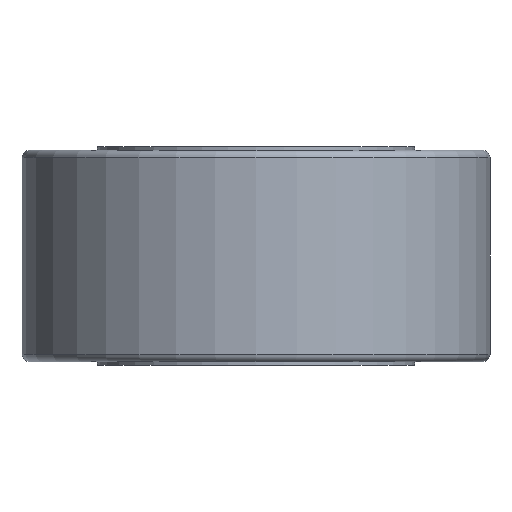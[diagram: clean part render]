
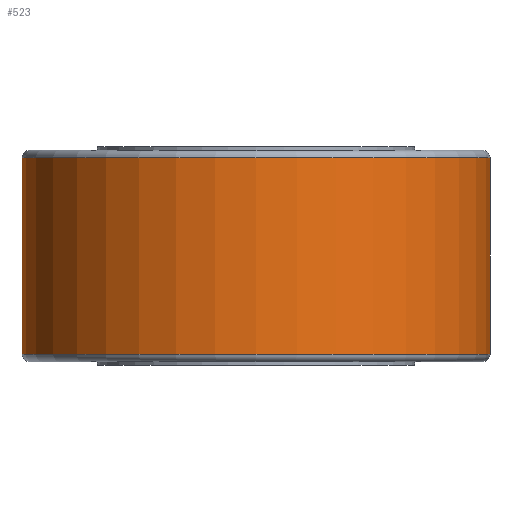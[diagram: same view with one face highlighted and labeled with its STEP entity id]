
A CAD part, front view. The second image highlights one B-rep face of the part: STEP entity #523.
In plain terms, the highlighted cylindrical face has radius 31 mm (diameter 62 mm), a partial arc.
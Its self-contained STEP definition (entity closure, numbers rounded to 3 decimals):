
#3 = DIRECTION ( 'NONE',  ( -1., 0., 0. ) ) ;
#11 = CARTESIAN_POINT ( 'NONE',  ( 0., 0., 1. ) ) ;
#28 = CARTESIAN_POINT ( 'NONE',  ( 31., 0., 1. ) ) ;
#41 = CARTESIAN_POINT ( 'NONE',  ( 31., 0., 28. ) ) ;
#54 = DIRECTION ( 'NONE',  ( 0., 0., -1. ) ) ;
#63 = DIRECTION ( 'NONE',  ( 1., 0., 0. ) ) ;
#83 = CIRCLE ( 'NONE', #226, 31. ) ;
#123 = ORIENTED_EDGE ( 'NONE', *, *, #516, .T. ) ;
#124 = DIRECTION ( 'NONE',  ( 0., 0., -1. ) ) ;
#171 = CARTESIAN_POINT ( 'NONE',  ( -31., 0., 28. ) ) ;
#186 = FACE_OUTER_BOUND ( 'NONE', #554, .T. ) ;
#194 = LINE ( 'NONE', #41, #530 ) ;
#201 = LINE ( 'NONE', #171, #309 ) ;
#214 = CYLINDRICAL_SURFACE ( 'NONE', #313, 31. ) ;
#221 = CARTESIAN_POINT ( 'NONE',  ( -31., 0., 1. ) ) ;
#226 = AXIS2_PLACEMENT_3D ( 'NONE', #314, #54, #362 ) ;
#227 = DIRECTION ( 'NONE',  ( 0., 0., -1. ) ) ;
#250 = CIRCLE ( 'NONE', #258, 31. ) ;
#258 = AXIS2_PLACEMENT_3D ( 'NONE', #11, #321, #63 ) ;
#265 = VERTEX_POINT ( 'NONE', #497 ) ;
#267 = VERTEX_POINT ( 'NONE', #221 ) ;
#309 = VECTOR ( 'NONE', #124, 1000. ) ;
#313 = AXIS2_PLACEMENT_3D ( 'NONE', #538, #227, #3 ) ;
#314 = CARTESIAN_POINT ( 'NONE',  ( 0., 0., 27. ) ) ;
#321 = DIRECTION ( 'NONE',  ( 0., 0., 1. ) ) ;
#349 = DIRECTION ( 'NONE',  ( 0., 0., -1. ) ) ;
#359 = EDGE_CURVE ( 'NONE', #265, #503, #194, .T. ) ;
#362 = DIRECTION ( 'NONE',  ( 1., 0., 0. ) ) ;
#372 = VERTEX_POINT ( 'NONE', #526 ) ;
#381 = ORIENTED_EDGE ( 'NONE', *, *, #387, .T. ) ;
#387 = EDGE_CURVE ( 'NONE', #372, #267, #201, .T. ) ;
#495 = ORIENTED_EDGE ( 'NONE', *, *, #573, .T. ) ;
#497 = CARTESIAN_POINT ( 'NONE',  ( 31., 0., 27. ) ) ;
#503 = VERTEX_POINT ( 'NONE', #28 ) ;
#516 = EDGE_CURVE ( 'NONE', #265, #372, #83, .T. ) ;
#523 = ADVANCED_FACE ( 'NONE', ( #186 ), #214, .T. ) ;
#526 = CARTESIAN_POINT ( 'NONE',  ( -31., 0., 27. ) ) ;
#527 = ORIENTED_EDGE ( 'NONE', *, *, #359, .F. ) ;
#530 = VECTOR ( 'NONE', #349, 1000. ) ;
#538 = CARTESIAN_POINT ( 'NONE',  ( 0., 0., 28. ) ) ;
#554 = EDGE_LOOP ( 'NONE', ( #527, #123, #381, #495 ) ) ;
#573 = EDGE_CURVE ( 'NONE', #267, #503, #250, .T. ) ;
